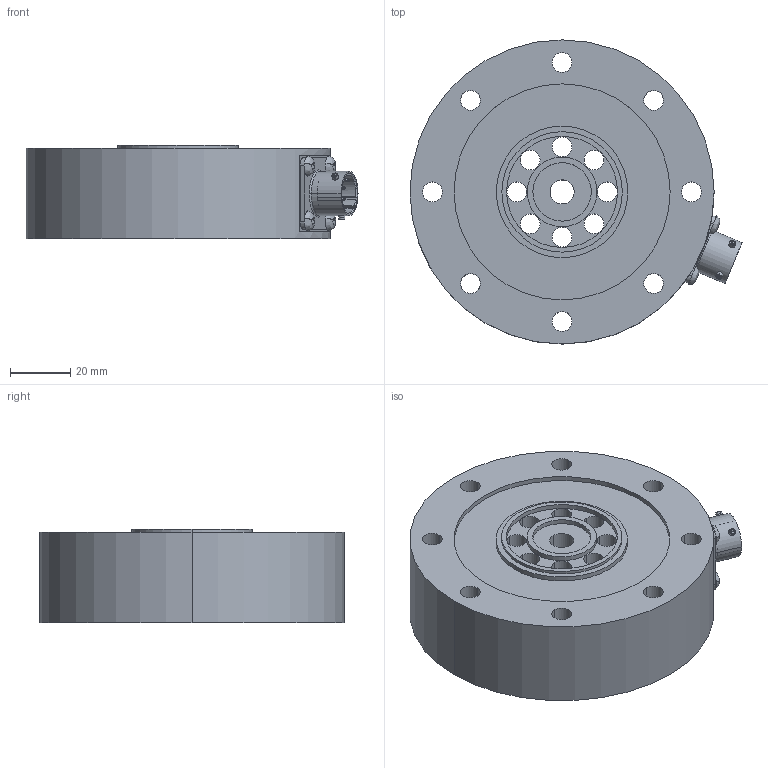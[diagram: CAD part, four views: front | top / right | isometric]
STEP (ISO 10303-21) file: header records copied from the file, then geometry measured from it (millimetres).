
FILE_DESCRIPTION (( 'STEP AP203' ), '1' );
FILE_NAME ('INTERFACE 1730ACK-11K.STEP', '2012-01-11T16:46:42', ( 'Ricky Parrish' ), ( '' ), 'SwSTEP 2.0', 'SolidWorks 2002349', '' );
FILE_SCHEMA (( 'CONFIG_CONTROL_DESIGN' ));
Length unit declared in the file: inch
Products named in the file (1): INTERFACE 1730ACK-11K
Bounding box: 110.25 x 100.99 x 31 mm (x, y, z)
Volume: 206274.1 mm3; surface area: 38431.1 mm2
Topology: 1 solids, 1 shells, 245 faces, 621 edges, 408 vertices
Faces by surface type: cylinder 124, plane 85, bspline 28, cone 8
Entity records: 8693 total; most frequent: CARTESIAN_POINT 2742, ORIENTED_EDGE 1242, DIRECTION 1211, EDGE_CURVE 621, AXIS2_PLACEMENT_3D 490, VERTEX_POINT 408, EDGE_LOOP 309, CIRCLE 272
